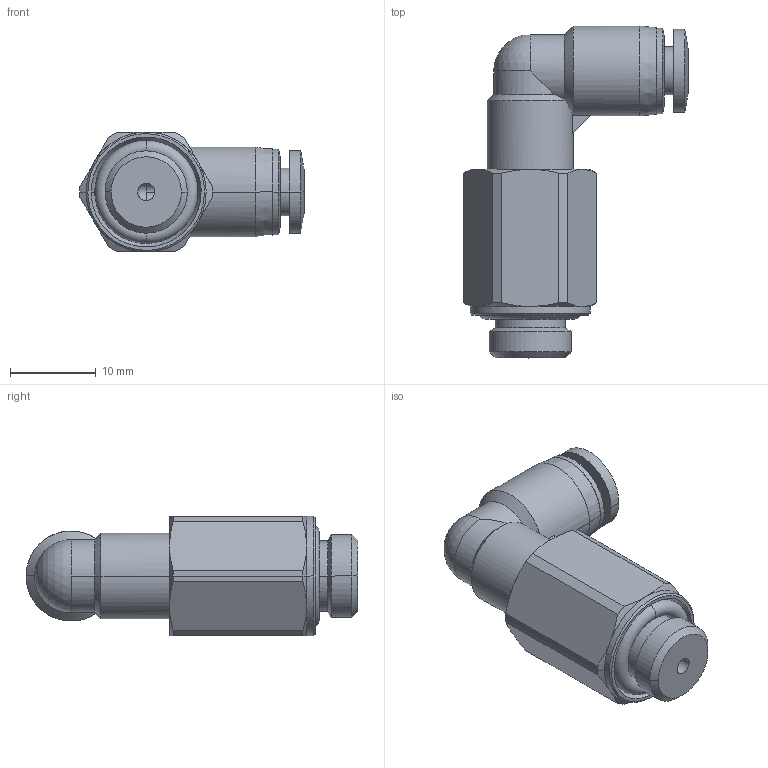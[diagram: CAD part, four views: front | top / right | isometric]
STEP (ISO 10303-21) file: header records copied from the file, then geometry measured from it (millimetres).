
FILE_DESCRIPTION (( 'STEP AP203' ), '1' );
FILE_NAME ('FLL04-01.STEP', '2020-05-13T11:06:22', ( '' ), ( '' ), 'SwSTEP 2.0', 'SolidWorks 2019', '' );
FILE_SCHEMA (( 'CONFIG_CONTROL_DESIGN' ));
Length unit declared in the file: millimetre
Products named in the file (1): FLL04-01
Bounding box: 26.2 x 38.75 x 14 mm (x, y, z)
Surface area: 2943.4 mm2 (no closed solid volume)
Topology: 0 solids, 4 shells, 93 faces, 223 edges, 138 vertices
Faces by surface type: cylinder 34, cone 32, plane 19, torus 4, bspline 2, sphere 2
Entity records: 4276 total; most frequent: CARTESIAN_POINT 2427, ORIENTED_EDGE 424, DIRECTION 236, EDGE_CURVE 220, B_SPLINE_CURVE_WITH_KNOTS 170, VERTEX_POINT 137, EDGE_LOOP 103, AXIS2_PLACEMENT_3D 96
